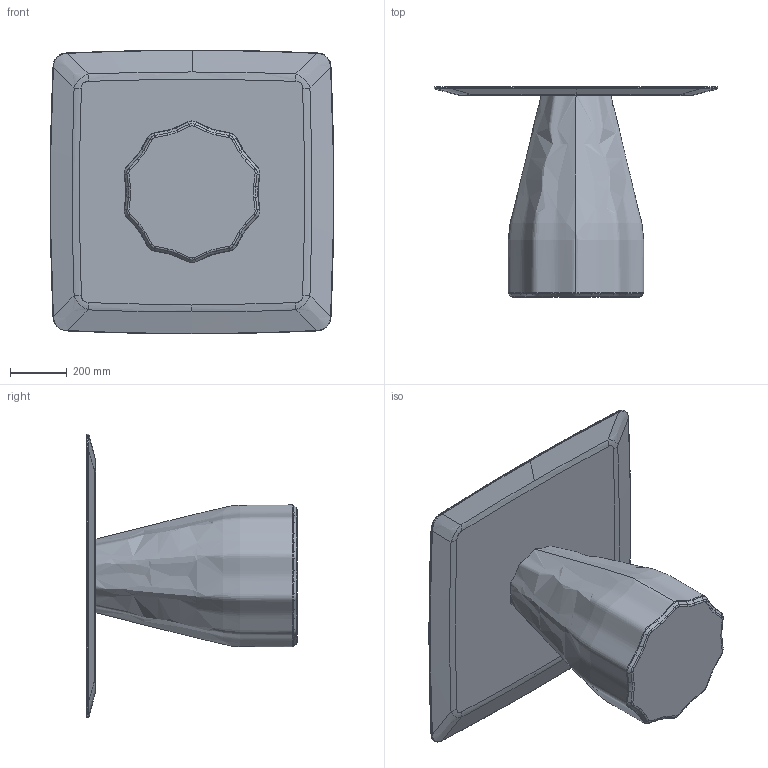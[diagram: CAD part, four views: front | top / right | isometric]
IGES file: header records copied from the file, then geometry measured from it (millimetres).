
Start section: SolidWorks IGES file using analytic representation for surfaces
Global section: file name: Z:\01-VICCARBE\VICCARBE TECNICO 2018\6.-Studio VCCB\Otros\Burin\Modelado\WEB\Nueva carpeta\BurinH74C100.IGS; native system: SolidWorks 2013; preprocessor: SolidWorks 2013; author: Usuario; date: 190219.125640; units: millimetre
Bounding box: 999.17 x 740 x 999.56 mm (x, y, z)
Volume: 118569808.3 mm3; surface area: 3145878.1 mm2
Topology: 2 solids, 2 shells, 179 faces, 451 edges, 276 vertices
Faces by surface type: bspline 142, revolution 33, plane 4
